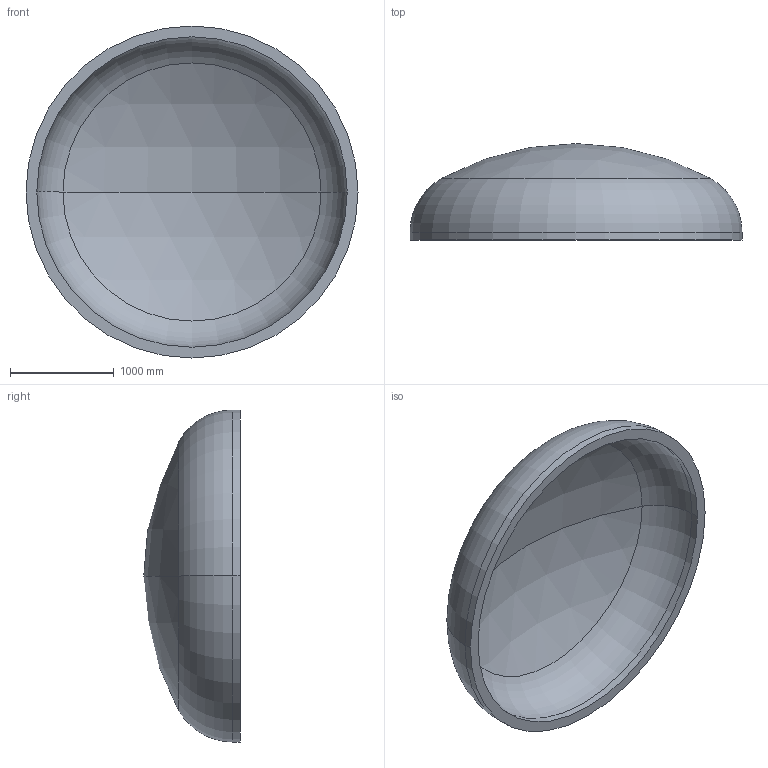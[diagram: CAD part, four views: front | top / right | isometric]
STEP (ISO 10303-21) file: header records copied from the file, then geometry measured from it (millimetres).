
FILE_DESCRIPTION (( 'STEP AP203' ), '1' );
FILE_NAME ('DIN 28013 Korbbogenform_-_Boden DIN 28013 - 3200 x 75 - I - s=104.step', '2016-07-01T18:59:38', ( '' ), ( '' ), 'SwSTEP 2.0', 'SolidWorks 2013', '' );
FILE_SCHEMA (( 'CONFIG_CONTROL_DESIGN' ));
Length unit declared in the file: millimetre
Products named in the file (1): DIN 28013 Korbbogenform_-_Boden DIN 28013 - 3200 x 75 - I - s=104
Bounding box: 3200 x 929.89 x 3200 mm (x, y, z)
Volume: 1184962901.5 mm3; surface area: 23821936.1 mm2
Topology: 1 solids, 1 shells, 13 faces, 24 edges, 14 vertices
Faces by surface type: torus 4, cylinder 4, sphere 4, plane 1
Entity records: 407 total; most frequent: DIRECTION 72, CARTESIAN_POINT 52, ORIENTED_EDGE 48, AXIS2_PLACEMENT_3D 34, EDGE_CURVE 24, CIRCLE 20, EDGE_LOOP 14, VERTEX_POINT 14
